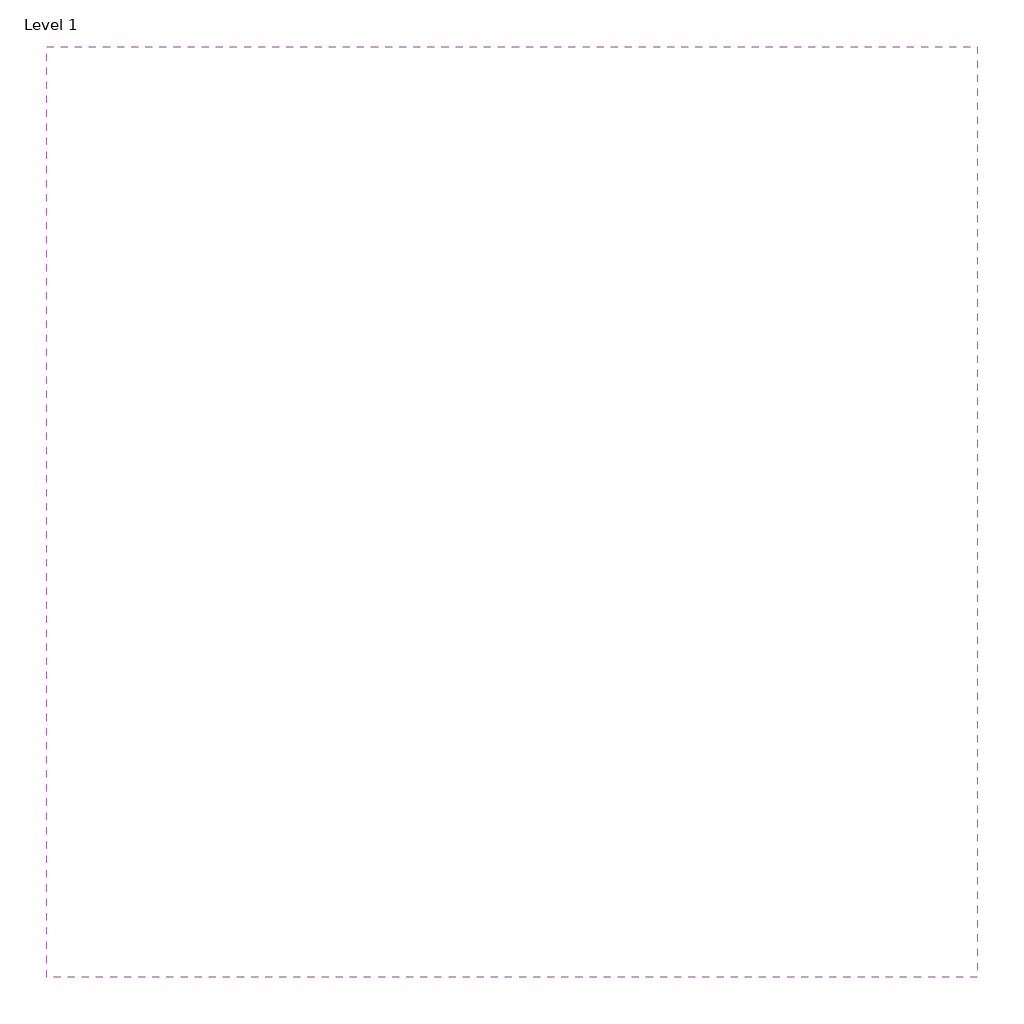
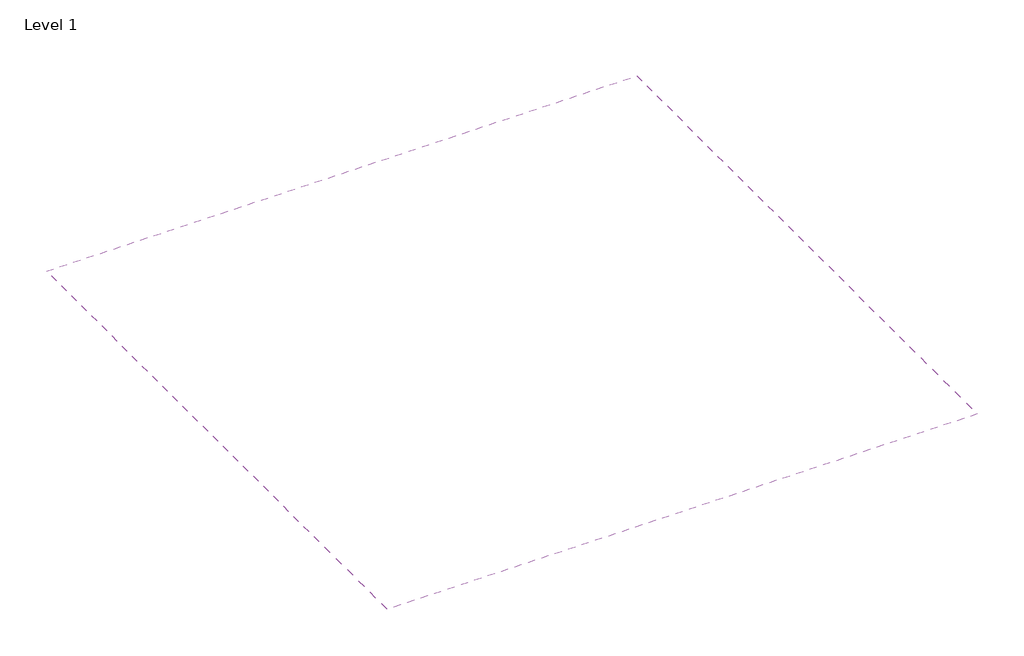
# One storey: 1 covering.
"""IFC4 building model written with IfcOpenShell, lengths in millimetres."""

from ifc_helpers import new_model, si_unit, frame, origin, place, context, project, spatial, polyline, outline, extrude, element, save

model = new_model("IFC4")

# Units and contexts
model_context = context("Model", 3, world=origin())
ifc_project = project(units=[si_unit("LENGTHUNIT", "METRE", prefix="MILLI")], contexts=[model_context])

# Site, building, storey
site = spatial("IfcSite", under=ifc_project)
building = spatial("IfcBuilding", under=site)
storey = spatial("IfcBuildingStorey", under=building, Name="Level 1", Elevation=0.0)

# Covering
placement = place(None, origin())
element("IfcCovering", 1, ObjectType="Gyptec-TETO 78 GYPCORK 13A-40", at=placement, inside=storey, context=model_context, shape_type="SweptSolid", body=[
    extrude(outline(polyline([(-432.1403789, 490.7407393), (567.8596211, 490.7407393), (567.8596211, -309.2592607), (-432.1403789, -309.2592607), (-432.1403789, 490.7407393)])), frame((0.0, 0.0, 2572.5), z_axis=(0.0, 0.0, 1.0), x_axis=(1.0, 0.0, 0.0)), (0.0, 0.0, 1.0), 40.0),
    extrude(outline(polyline([(567.8596211, 490.7407393), (567.8596211, -509.2592607), (-432.1403789, -509.2592607), (-432.1403789, 490.7407393), (567.8596211, 490.7407393)])), frame((0.0, 0.0, 2560.0), z_axis=(0.0, 0.0, 1.0), x_axis=(1.0, 0.0, 0.0)), (0.0, 0.0, 1.0), 12.5),
])

save(model, "model.ifc")
